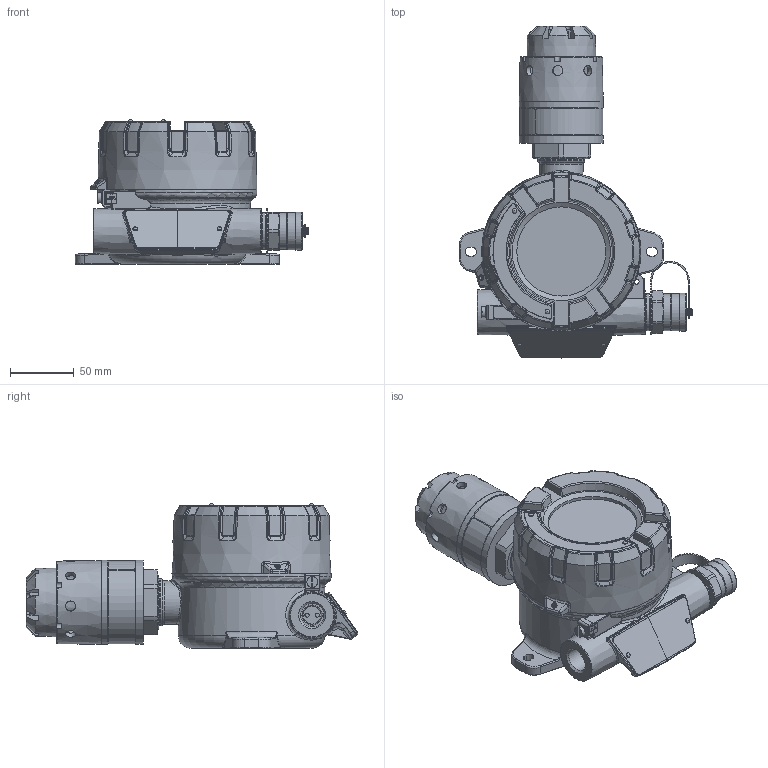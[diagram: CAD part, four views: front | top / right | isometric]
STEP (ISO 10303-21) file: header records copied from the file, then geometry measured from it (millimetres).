
FILE_DESCRIPTION(('STEP AP214'), '1');
FILE_NAME('ÄÃÑ ÝÐÈÑ-210_2023_äëÿ ïðîåêòèðîâùèêîâ', '2023-11-17T06:11:31', ('Alexandr'), (''), 'C3D Converter', 'C3D Toolkit', '');
FILE_SCHEMA(('AUTOMOTIVE_DESIGN { 1 0 10303 214 3 1 1}'));
Length unit declared in the file: millimetre
Products named in the file (1): АПНС.413216.212
Bounding box: 183 x 260.43 x 113.4 mm (x, y, z)
Volume: 772982 mm3; surface area: 297646.9 mm2
Topology: 37 solids, 37 shells, 1656 faces, 4113 edges, 2523 vertices
Faces by surface type: plane 480, bspline 455, cylinder 404, cone 195, torus 108, sphere 14
Full cylindrical faces by diameter (mm): 0.8 x3, 1.4 x9, 2 x11, 2.459 x11, 2.5 x2, 3.242 x2, 3.3 x2, 3.5 x2, 3.6 x4, 4 x5, 4.134 x1, 4.5 x1, 5 x2, 5.064 x1, 6 x3, 7 x3, 7.5 x1, 7.95 x8, 8.5 x1, 10 x1, 10.106 x1, 10.15 x1, 11.4 x1, 14 x1, 17 x1, 17.4 x1, 17.8 x1, 18.376 x3, 19 x2, 20 x3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
Entity records: 119933 total; most frequent: CARTESIAN_POINT 72496, ORIENTED_EDGE 7554, DIRECTION 5600, EDGE_CURVE 3777, VERTEX_POINT 2501, AXIS2_PLACEMENT_3D 2317, EDGE_LOOP 2062, COLOUR_RGB 1693
